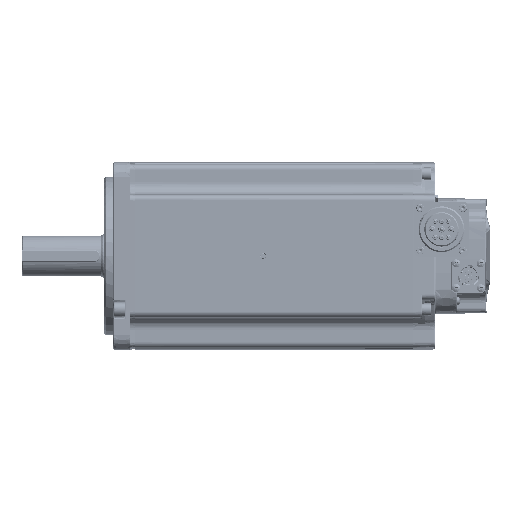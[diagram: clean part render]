
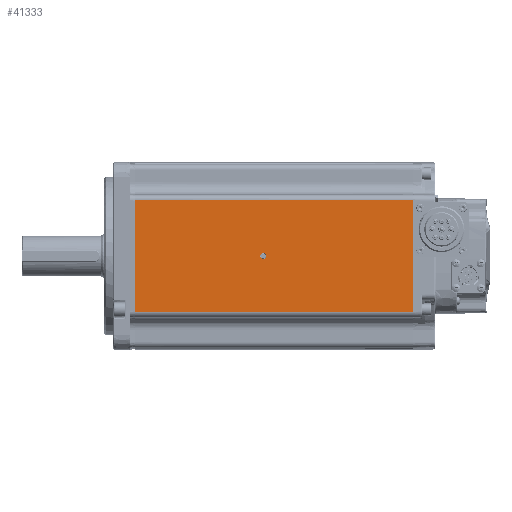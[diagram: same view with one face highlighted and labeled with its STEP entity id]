
A CAD part, front view. The second image highlights one B-rep face of the part: STEP entity #41333.
In plain terms, the highlighted planar face has unit normal (0, -1, 0).
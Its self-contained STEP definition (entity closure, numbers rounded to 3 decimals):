
#4886 = LINE ( 'NONE', #169760, #82020 ) ;
#8273 = CARTESIAN_POINT ( 'NONE',  ( 270.5, -65., 38.489 ) ) ;
#12978 = VERTEX_POINT ( 'NONE', #99022 ) ;
#15885 = B_SPLINE_CURVE_WITH_KNOTS ( 'NONE', 3,
 ( #8273, #219172, #25969, #149144 ),
 .UNSPECIFIED., .F., .F.,
 ( 4, 4 ),
 ( 0., 1. ),
 .UNSPECIFIED. ) ;
#16425 = EDGE_CURVE ( 'NONE', #39767, #69741, #37928, .T. ) ;
#16450 = LINE ( 'NONE', #186845, #145894 ) ;
#17689 = CIRCLE ( 'NONE', #49512, 2.025 ) ;
#18357 = CARTESIAN_POINT ( 'NONE',  ( 78., -65., 38.489 ) ) ;
#25969 = CARTESIAN_POINT ( 'NONE',  ( 270.5, -65., -12.83 ) ) ;
#34703 = CARTESIAN_POINT ( 'NONE',  ( 174.25, -65., 38.489 ) ) ;
#36127 = ORIENTED_EDGE ( 'NONE', *, *, #50101, .F. ) ;
#37928 = CIRCLE ( 'NONE', #182982, 2.025 ) ;
#39767 = VERTEX_POINT ( 'NONE', #190706 ) ;
#41333 = ADVANCED_FACE ( 'NONE', ( #113204, #71995 ), #133828, .F. ) ;
#45542 = CARTESIAN_POINT ( 'NONE',  ( 167., -65., -0.011 ) ) ;
#45580 = DIRECTION ( 'NONE',  ( 0., -1., 0. ) ) ;
#45858 = DIRECTION ( 'NONE',  ( 0., 0., -1. ) ) ;
#49512 = AXIS2_PLACEMENT_3D ( 'NONE', #53277, #176326, #70949 ) ;
#49733 = CARTESIAN_POINT ( 'NONE',  ( 78., -65., -38.489 ) ) ;
#49887 = CARTESIAN_POINT ( 'NONE',  ( 78., -65., -38.182 ) ) ;
#50101 = EDGE_CURVE ( 'NONE', #178884, #12978, #143804, .T. ) ;
#50304 = ORIENTED_EDGE ( 'NONE', *, *, #62019, .F. ) ;
#50461 = VERTEX_POINT ( 'NONE', #49887 ) ;
#53277 = CARTESIAN_POINT ( 'NONE',  ( 167., -65., -0.011 ) ) ;
#62019 = EDGE_CURVE ( 'NONE', #69741, #39767, #17689, .T. ) ;
#63186 = VERTEX_POINT ( 'NONE', #49733 ) ;
#63776 = DIRECTION ( 'NONE',  ( -1., 0., 0. ) ) ;
#65462 = ORIENTED_EDGE ( 'NONE', *, *, #107563, .F. ) ;
#69741 = VERTEX_POINT ( 'NONE', #209302 ) ;
#70561 = CARTESIAN_POINT ( 'NONE',  ( 78., -65., 38.182 ) ) ;
#70949 = DIRECTION ( 'NONE',  ( 0., 0., -1. ) ) ;
#71995 = FACE_OUTER_BOUND ( 'NONE', #192679, .T. ) ;
#74537 = LINE ( 'NONE', #104715, #168104 ) ;
#74544 = DIRECTION ( 'NONE',  ( -1., 0., 0. ) ) ;
#81920 = VERTEX_POINT ( 'NONE', #196127 ) ;
#82020 = VECTOR ( 'NONE', #187451, 1000. ) ;
#82276 = LINE ( 'NONE', #179948, #175910 ) ;
#84984 = AXIS2_PLACEMENT_3D ( 'NONE', #221509, #169138, #63776 ) ;
#91561 = ORIENTED_EDGE ( 'NONE', *, *, #141644, .F. ) ;
#99022 = CARTESIAN_POINT ( 'NONE',  ( 270.5, -65., 38.489 ) ) ;
#104715 = CARTESIAN_POINT ( 'NONE',  ( 78., -65., 0. ) ) ;
#107563 = EDGE_CURVE ( 'NONE', #12978, #81920, #15885, .T. ) ;
#110094 = EDGE_LOOP ( 'NONE', ( #50304, #224127 ) ) ;
#113204 = FACE_BOUND ( 'NONE', #110094, .T. ) ;
#123111 = EDGE_CURVE ( 'NONE', #63186, #50461, #16450, .T. ) ;
#133828 = PLANE ( 'NONE',  #84984 ) ;
#141644 = EDGE_CURVE ( 'NONE', #50461, #193815, #74537, .T. ) ;
#143804 = LINE ( 'NONE', #34703, #196058 ) ;
#144379 = EDGE_CURVE ( 'NONE', #81920, #63186, #82276, .T. ) ;
#145894 = VECTOR ( 'NONE', #204560, 1000. ) ;
#149144 = CARTESIAN_POINT ( 'NONE',  ( 270.5, -65., -38.489 ) ) ;
#168104 = VECTOR ( 'NONE', #227818, 1000. ) ;
#169138 = DIRECTION ( 'NONE',  ( 0., 1., 0. ) ) ;
#169760 = CARTESIAN_POINT ( 'NONE',  ( 78., -65., 41.099 ) ) ;
#172079 = ORIENTED_EDGE ( 'NONE', *, *, #123111, .F. ) ;
#173300 = EDGE_CURVE ( 'NONE', #193815, #178884, #4886, .T. ) ;
#175526 = DIRECTION ( 'NONE',  ( 1., 0., 0. ) ) ;
#175910 = VECTOR ( 'NONE', #74544, 1000. ) ;
#176326 = DIRECTION ( 'NONE',  ( 0., -1., 0. ) ) ;
#178884 = VERTEX_POINT ( 'NONE', #18357 ) ;
#179915 = ORIENTED_EDGE ( 'NONE', *, *, #144379, .F. ) ;
#179948 = CARTESIAN_POINT ( 'NONE',  ( 174.25, -65., -38.489 ) ) ;
#182982 = AXIS2_PLACEMENT_3D ( 'NONE', #45542, #45580, #45858 ) ;
#186845 = CARTESIAN_POINT ( 'NONE',  ( 78., -65., -41.099 ) ) ;
#187451 = DIRECTION ( 'NONE',  ( 0., 0., 1. ) ) ;
#190706 = CARTESIAN_POINT ( 'NONE',  ( 167., -65., 2.014 ) ) ;
#192679 = EDGE_LOOP ( 'NONE', ( #36127, #224577, #91561, #172079, #179915, #65462 ) ) ;
#193815 = VERTEX_POINT ( 'NONE', #70561 ) ;
#196058 = VECTOR ( 'NONE', #175526, 1000. ) ;
#196127 = CARTESIAN_POINT ( 'NONE',  ( 270.5, -65., -38.489 ) ) ;
#204560 = DIRECTION ( 'NONE',  ( 0., 0., 1. ) ) ;
#209302 = CARTESIAN_POINT ( 'NONE',  ( 167., -65., -2.036 ) ) ;
#219172 = CARTESIAN_POINT ( 'NONE',  ( 270.5, -65., 12.83 ) ) ;
#221509 = CARTESIAN_POINT ( 'NONE',  ( 270.5, -65., -38.489 ) ) ;
#224127 = ORIENTED_EDGE ( 'NONE', *, *, #16425, .F. ) ;
#224577 = ORIENTED_EDGE ( 'NONE', *, *, #173300, .F. ) ;
#227818 = DIRECTION ( 'NONE',  ( 0., 0., 1. ) ) ;
